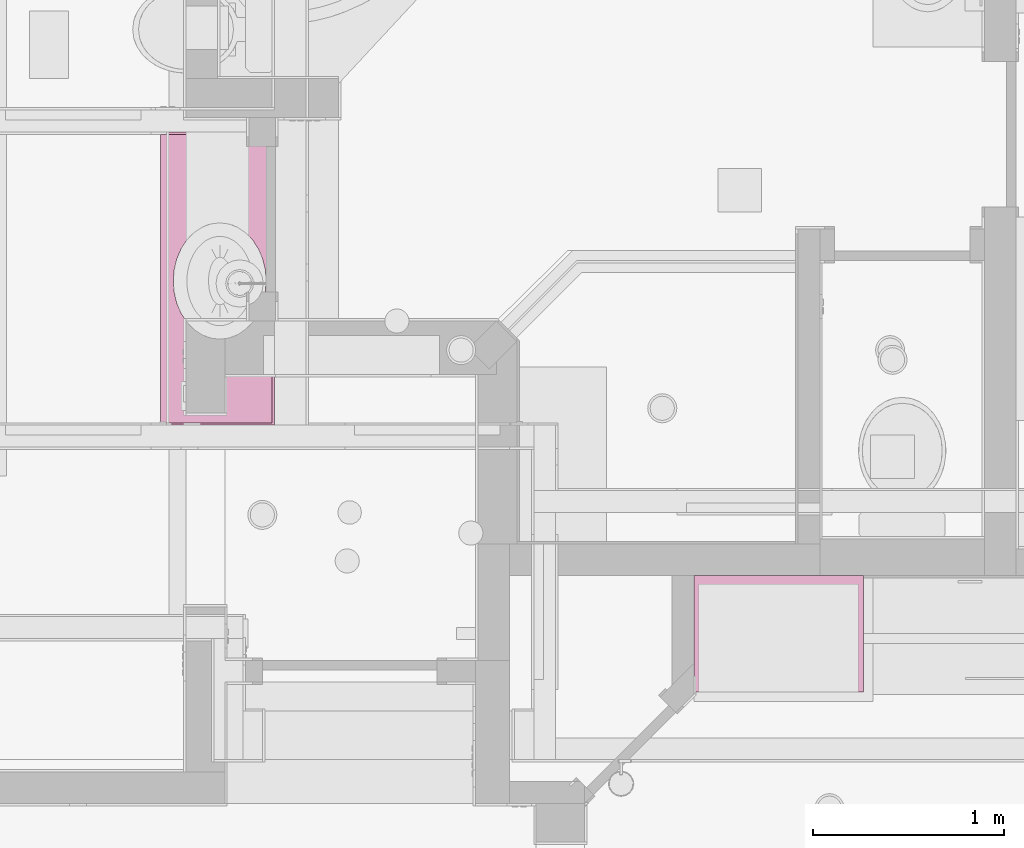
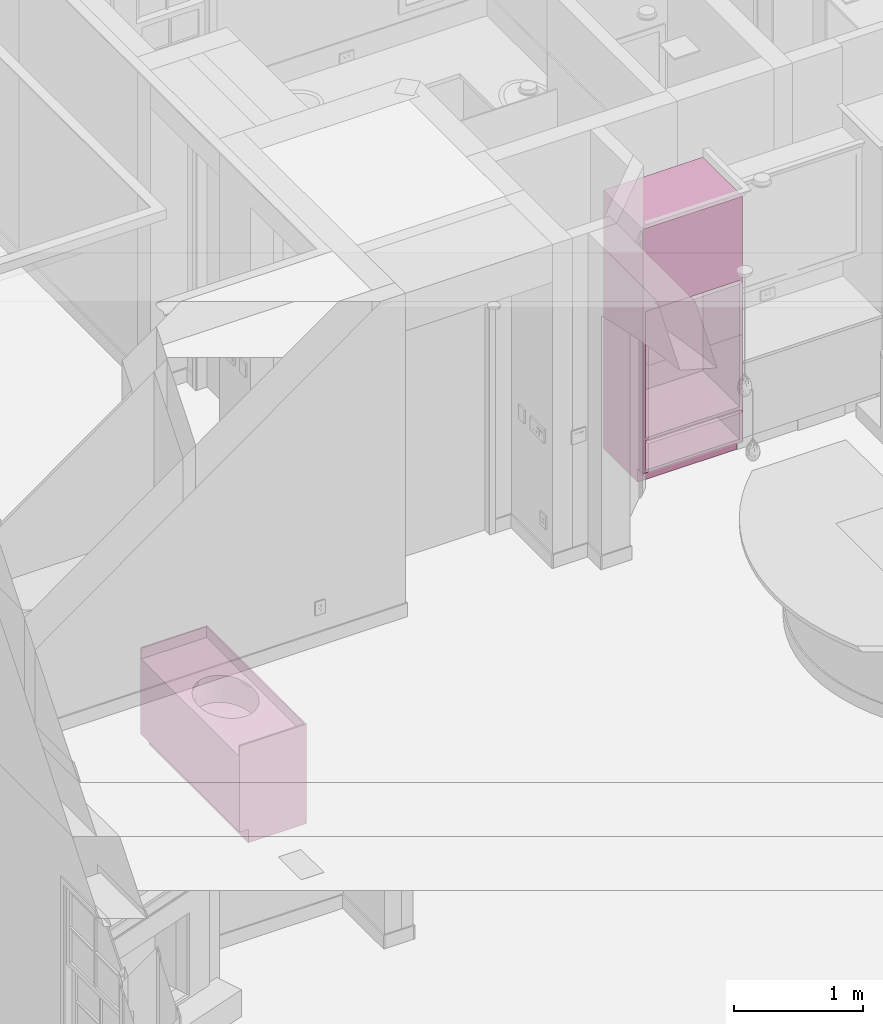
# One storey, part 58 of 81: 2 furnishings.
"""IFC2X3 building model written with IfcOpenShell, lengths in feet."""

from ifc_helpers import new_model, entity, si_unit, converted_unit, derived_unit, direction, frame, origin, place, context, subcontext, project, spatial, faceted_brep, source, transform, mapped, material, type_object, type_shapes, element, save


model = new_model("IFC2X3")

# Units and contexts
model_context = context("Model", 3, precision=0.0001, world=origin(), true_north=direction((6.12303176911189e-17, 1.0)))
body_context = subcontext(model_context, "Body", "Model", "MODEL_VIEW")
ifc_project = project(units=[converted_unit("LENGTHUNIT", "FOOT", entity("IfcRatioMeasure", 0.3048), si_unit("LENGTHUNIT", "METRE"), dimensions=[1, 0, 0, 0, 0, 0, 0]), converted_unit("AREAUNIT", "SQUARE FOOT", entity("IfcRatioMeasure", 0.09290304), si_unit("AREAUNIT", "SQUARE_METRE"), dimensions=[2, 0, 0, 0, 0, 0, 0]), converted_unit("VOLUMEUNIT", "CUBIC FOOT", entity("IfcRatioMeasure", 0.028316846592), si_unit("VOLUMEUNIT", "CUBIC_METRE"), dimensions=[3, 0, 0, 0, 0, 0, 0]), converted_unit("PLANEANGLEUNIT", "DEGREE", entity("IfcRatioMeasure", 0.0174532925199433), si_unit("PLANEANGLEUNIT", "RADIAN"), dimensions=[0, 0, 0, 0, 0, 0, 0]), si_unit("MASSUNIT", "GRAM", prefix="KILO"), derived_unit("MASSDENSITYUNIT", [(si_unit("MASSUNIT", "GRAM", prefix="KILO"), 1), (si_unit("LENGTHUNIT", "METRE"), -3)]), derived_unit("MOMENTOFINERTIAUNIT", [(si_unit("LENGTHUNIT", "METRE"), 4)]), si_unit("TIMEUNIT", "SECOND"), si_unit("FREQUENCYUNIT", "HERTZ"), si_unit("THERMODYNAMICTEMPERATUREUNIT", "DEGREE_CELSIUS"), derived_unit("THERMALTRANSMITTANCEUNIT", [(si_unit("MASSUNIT", "GRAM", prefix="KILO"), 1), (si_unit("THERMODYNAMICTEMPERATUREUNIT", "KELVIN"), -1), (si_unit("TIMEUNIT", "SECOND"), -3)]), derived_unit("VOLUMETRICFLOWRATEUNIT", [(si_unit("LENGTHUNIT", "METRE"), 3), (si_unit("TIMEUNIT", "SECOND"), -1)]), si_unit("ELECTRICCURRENTUNIT", "AMPERE"), si_unit("ELECTRICVOLTAGEUNIT", "VOLT"), si_unit("POWERUNIT", "WATT"), si_unit("FORCEUNIT", "NEWTON"), si_unit("ILLUMINANCEUNIT", "LUX"), si_unit("LUMINOUSFLUXUNIT", "LUMEN"), si_unit("LUMINOUSINTENSITYUNIT", "CANDELA"), derived_unit("USERDEFINED", [(si_unit("MASSUNIT", "GRAM", prefix="KILO"), -1), (si_unit("LENGTHUNIT", "METRE"), -2), (si_unit("TIMEUNIT", "SECOND"), 3), (si_unit("LUMINOUSFLUXUNIT", "LUMEN"), 1)]), derived_unit("LINEARVELOCITYUNIT", [(si_unit("LENGTHUNIT", "METRE"), 1), (si_unit("TIMEUNIT", "SECOND"), -1)]), si_unit("PRESSUREUNIT", "PASCAL"), derived_unit("USERDEFINED", [(si_unit("LENGTHUNIT", "METRE"), -2), (si_unit("MASSUNIT", "GRAM", prefix="KILO"), 1), (si_unit("TIMEUNIT", "SECOND"), -2)]), derived_unit("LINEARFORCEUNIT", [(si_unit("MASSUNIT", "GRAM", prefix="KILO"), 1), (si_unit("LENGTHUNIT", "METRE"), 1), (si_unit("TIMEUNIT", "SECOND"), -2), (si_unit("LENGTHUNIT", "METRE"), -1)]), derived_unit("PLANARFORCEUNIT", [(si_unit("MASSUNIT", "GRAM", prefix="KILO"), 1), (si_unit("LENGTHUNIT", "METRE"), 1), (si_unit("TIMEUNIT", "SECOND"), -2), (si_unit("LENGTHUNIT", "METRE"), -2)])], contexts=[model_context])

# Site, building, storey
site_placement = place(None, origin())
site = spatial("IfcSite", under=ifc_project, at=site_placement, Name="Default", CompositionType="ELEMENT")
building_placement = place(site_placement, origin())
building = spatial("IfcBuilding", under=site, at=building_placement, CompositionType="ELEMENT")
storey_placement = place(building_placement, origin())
storey = spatial("IfcBuildingStorey", under=building, at=storey_placement, Name="First floor", CompositionType="ELEMENT", Elevation=0.0)

# Furnishings
ifc_material = material(Name="Default New Material")
furniture_type_1 = type_object("IfcFurnitureType", Name="Casework 1:Casework 1", material=ifc_material)
shared_shape_1 = source(origin(), body_context, "Body", "Brep", [
    faceted_brep([(1.9583333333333, 0.0, 2.75), (1.46016857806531, 1.64769705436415, 2.75), (1.32219673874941, 1.55528713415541, 2.75), (1.58110190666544, 1.77205988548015, 2.75), (1.17248856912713, 1.49838138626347, 2.75), (1.01679727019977, 1.4791666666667, 2.75), (1.68034932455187, 1.9235964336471, 2.75), (1.75409680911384, 2.09648323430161, 2.75), (1.79951028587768, 2.28407634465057, 2.75), (1.81484454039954, 2.4791666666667, 2.75), (1.9583333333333, 5.04166666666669, 2.75), (0.0, 0.0, 2.75), (1.79951028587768, 2.67425698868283, 2.75), (1.75409680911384, 2.86185009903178, 2.75), (1.68034932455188, 3.0347368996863, 2.75), (1.58110190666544, 3.18627344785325, 2.75), (1.46016857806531, 3.31063627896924, 2.75), (1.32219673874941, 3.40304619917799, 2.75), (1.17248856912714, 3.45995194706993, 2.75), (1.01679727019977, 3.4791666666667, 2.75), (0.0, 5.04166666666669, 2.75), (0.861105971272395, 3.45995194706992, 2.75), (0.711397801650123, 3.40304619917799, 2.75), (0.573425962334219, 3.31063627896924, 2.75), (0.452492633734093, 3.18627344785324, 2.75), (0.353245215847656, 3.03473689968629, 2.75), (0.279497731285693, 2.86185009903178, 2.75), (0.234084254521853, 2.67425698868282, 2.75), (0.218749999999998, 2.47916666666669, 2.75), (0.861105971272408, 1.49838138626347, 2.75), (0.711397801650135, 1.55528713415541, 2.75), (0.573425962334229, 1.64769705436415, 2.75), (0.452492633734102, 1.77205988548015, 2.75), (0.353245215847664, 1.92359643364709, 2.75), (0.279497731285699, 2.0964832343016, 2.75), (0.234084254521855, 2.28407634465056, 2.75), (1.9583333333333, 5.04166666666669, 2.625), (1.32219673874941, 3.40304619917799, 2.625), (1.17248856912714, 3.45995194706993, 2.625), (1.46016857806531, 3.31063627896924, 2.625), (1.01679727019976, 3.4791666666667, 2.625), (0.0, 5.04166666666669, 2.625), (1.58110190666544, 3.18627344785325, 2.625), (1.68034932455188, 3.0347368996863, 2.625), (1.75409680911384, 2.86185009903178, 2.625), (1.79951028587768, 2.67425698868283, 2.625), (1.81484454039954, 2.4791666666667, 2.625), (1.9583333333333, 0.0, 2.625), (1.79951028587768, 2.28407634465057, 2.625), (1.75409680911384, 2.09648323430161, 2.625), (1.68034932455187, 1.9235964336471, 2.625), (1.58110190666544, 1.77205988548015, 2.625), (1.46016857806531, 1.64769705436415, 2.625), (1.32219673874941, 1.55528713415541, 2.625), (1.17248856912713, 1.49838138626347, 2.625), (1.01679727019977, 1.4791666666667, 2.625), (0.0, 0.0, 2.625), (0.218749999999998, 2.47916666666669, 2.625), (0.861105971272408, 1.49838138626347, 2.625), (0.711397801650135, 1.55528713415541, 2.625), (0.573425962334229, 1.64769705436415, 2.625), (0.452492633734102, 1.77205988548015, 2.625), (0.353245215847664, 1.92359643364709, 2.625), (0.279497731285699, 2.0964832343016, 2.625), (0.234084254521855, 2.28407634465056, 2.625), (0.234084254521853, 2.67425698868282, 2.625), (0.861105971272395, 3.45995194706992, 2.625), (0.711397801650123, 3.40304619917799, 2.625), (0.573425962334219, 3.31063627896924, 2.625), (0.452492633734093, 3.18627344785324, 2.625), (0.353245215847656, 3.03473689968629, 2.625), (0.279497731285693, 2.86185009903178, 2.625), (0.824164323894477, 1.50873608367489, 2.6873687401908), (0.785136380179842, 3.43610700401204, 2.68749999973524), (1.01679727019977, 1.4791666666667, 2.67701974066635), (0.312982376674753, 2.0077700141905, 2.68749998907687), (0.312982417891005, 2.9505634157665, 2.68749999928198), (0.640600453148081, 1.5972453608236, 2.68749999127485), (0.479638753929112, 1.73960708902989, 2.68749996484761), (0.222592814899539, 2.38114953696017, 2.68750000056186), (0.510521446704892, 3.2521771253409, 2.6874999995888), (1.01679727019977, 1.4791666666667, 2.68750001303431), (0.227631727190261, 2.62794431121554, 2.68749999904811), (1.01679727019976, 3.4791666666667, 2.6875), (1.01679727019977, 3.4791666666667, 2.67701974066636), (1.20943021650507, 3.4495972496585, 2.6873687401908), (1.24845816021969, 1.52222632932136, 2.68749999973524), (1.72061216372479, 2.95056331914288, 2.68749998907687), (1.72061212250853, 2.0077699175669, 2.68749999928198), (1.39299408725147, 3.36108797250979, 2.68749999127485), (1.55395578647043, 3.21872624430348, 2.68749996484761), (1.8110017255, 2.57718379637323, 2.68750000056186), (1.52307309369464, 1.70615620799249, 2.6874999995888), (1.80596281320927, 2.33038902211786, 2.68749999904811)], [[[0, 1, 2]], [[1, 0, 3]], [[2, 4, 0]], [[0, 4, 5]], [[6, 3, 0]], [[7, 6, 0]], [[8, 7, 0]], [[9, 8, 0]], [[0, 10, 9]], [[5, 11, 0]], [[12, 9, 10]], [[13, 12, 10]], [[13, 10, 14]], [[15, 14, 10]], [[10, 16, 15]], [[16, 10, 17]], [[18, 17, 10]], [[19, 18, 10]], [[10, 20, 19]], [[21, 19, 20]], [[22, 21, 20]], [[20, 23, 22]], [[24, 23, 20]], [[24, 20, 25]], [[26, 25, 20]], [[26, 20, 27]], [[28, 27, 20]], [[28, 20, 11]], [[5, 29, 11]], [[30, 11, 29]], [[11, 30, 31]], [[31, 32, 11]], [[32, 33, 11]], [[33, 34, 11]], [[34, 35, 11]], [[11, 35, 28]], [[36, 37, 38]], [[37, 36, 39]], [[38, 40, 36]], [[36, 40, 41]], [[42, 39, 36]], [[43, 42, 36]], [[44, 43, 36]], [[45, 44, 36]], [[36, 46, 45]], [[46, 36, 47]], [[48, 46, 47]], [[48, 47, 49]], [[50, 49, 47]], [[47, 51, 50]], [[51, 47, 52]], [[53, 52, 47]], [[54, 53, 47]], [[47, 55, 54]], [[55, 47, 56]], [[41, 57, 56]], [[58, 55, 56]], [[56, 59, 58]], [[60, 59, 56]], [[60, 56, 61]], [[62, 61, 56]], [[62, 56, 63]], [[64, 63, 56]], [[64, 56, 57]], [[65, 57, 41]], [[66, 41, 40]], [[66, 67, 41]], [[68, 41, 67]], [[41, 68, 69]], [[69, 70, 41]], [[70, 71, 41]], [[71, 65, 41]], [[10, 0, 47, 36]], [[20, 10, 36, 41]], [[11, 20, 41, 56]], [[0, 11, 56, 47]], [[59, 72, 58]], [[22, 73, 21]], [[74, 58, 72]], [[33, 75, 34]], [[26, 76, 25]], [[60, 77, 59]], [[62, 63, 75]], [[72, 30, 29]], [[75, 78, 62]], [[77, 72, 59]], [[79, 75, 64]], [[57, 79, 64]], [[24, 80, 23]], [[32, 31, 78]], [[75, 79, 35]], [[30, 77, 31]], [[30, 72, 77]], [[29, 5, 81, 74]], [[74, 55, 58]], [[61, 78, 60]], [[78, 75, 33]], [[32, 78, 33]], [[34, 75, 35]], [[80, 68, 67]], [[76, 70, 69]], [[79, 28, 35]], [[75, 63, 64]], [[78, 31, 77]], [[60, 78, 77]], [[57, 65, 82]], [[76, 71, 70]], [[19, 21, 83]], [[66, 40, 84, 83]], [[71, 76, 82]], [[78, 61, 62]], [[69, 80, 76]], [[82, 65, 71]], [[67, 66, 73]], [[67, 73, 80]], [[80, 69, 68]], [[21, 73, 83]], [[28, 79, 82]], [[27, 28, 82]], [[26, 82, 76]], [[26, 27, 82]], [[57, 82, 79]], [[24, 25, 76]], [[80, 24, 76]], [[73, 22, 80]], [[22, 23, 80]], [[66, 83, 73]], [[29, 74, 72]], [[37, 85, 38]], [[2, 86, 4]], [[84, 38, 85]], [[14, 87, 13]], [[7, 88, 6]], [[39, 89, 37]], [[43, 44, 87]], [[85, 17, 18]], [[87, 90, 43]], [[89, 85, 37]], [[91, 87, 45]], [[46, 91, 45]], [[3, 92, 1]], [[15, 16, 90]], [[87, 91, 12]], [[17, 89, 16]], [[17, 85, 89]], [[18, 19, 83, 84]], [[84, 40, 38]], [[42, 90, 39]], [[90, 87, 14]], [[15, 90, 14]], [[13, 87, 12]], [[92, 52, 53]], [[88, 50, 51]], [[91, 9, 12]], [[87, 44, 45]], [[90, 16, 89]], [[39, 90, 89]], [[46, 48, 93]], [[88, 49, 50]], [[5, 4, 81]], [[54, 55, 74, 81]], [[49, 88, 93]], [[90, 42, 43]], [[51, 92, 88]], [[93, 48, 49]], [[53, 54, 86]], [[53, 86, 92]], [[92, 51, 52]], [[4, 86, 81]], [[9, 91, 93]], [[8, 9, 93]], [[7, 93, 88]], [[7, 8, 93]], [[46, 93, 91]], [[3, 6, 88]], [[92, 3, 88]], [[86, 2, 92]], [[2, 1, 92]], [[54, 81, 86]], [[18, 84, 85]]]),
    faceted_brep([(1.91666666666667, 5.04166666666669, 3.08333333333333), (0.0, 5.04166666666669, 3.08333333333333), (0.0, 5.0, 3.08333333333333), (1.91666666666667, 5.0, 3.08333333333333), (1.91666666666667, 0.0416666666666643, 3.08333333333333), (0.0, 0.0416666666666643, 3.08333333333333), (0.0, 0.0, 3.08333333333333), (1.91666666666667, 0.0, 3.08333333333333), (1.9583333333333, 0.0, 3.08333333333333), (1.9583333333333, 5.04166666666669, 3.08333333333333), (1.91666666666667, 5.04166666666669, 2.75), (1.9583333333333, 5.04166666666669, 2.75), (1.9583333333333, 0.0, 2.75), (1.91666666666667, 0.0, 2.75), (0.0, 0.0, 2.75), (0.0, 0.0416666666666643, 2.75), (1.91666666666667, 0.0416666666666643, 2.75), (1.91666666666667, 5.0, 2.75), (0.0, 5.0, 2.75), (0.0, 5.04166666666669, 2.75)], [[[0, 1, 2, 3, 4, 5, 6, 7, 8, 9]], [[10, 11, 12, 13, 14, 15, 16, 17, 18, 19]], [[1, 0, 10, 19]], [[2, 1, 19, 18]], [[3, 2, 18, 17]], [[4, 3, 17, 16]], [[5, 4, 16, 15]], [[6, 5, 15, 14]], [[7, 6, 14, 13]], [[8, 7, 13, 12]], [[9, 8, 12, 11]], [[0, 9, 11, 10]]]),
    faceted_brep([(1.9583333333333, 5.04166666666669, 2.625), (1.75409680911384, 2.86185009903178, 2.625), (1.79951028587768, 2.67425698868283, 2.625), (1.68034932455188, 3.0347368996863, 2.625), (1.81484454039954, 2.4791666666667, 2.625), (1.9583333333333, 0.0, 2.625), (1.58110190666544, 3.18627344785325, 2.625), (1.46016857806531, 3.31063627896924, 2.625), (1.32219673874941, 3.40304619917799, 2.625), (1.17248856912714, 3.45995194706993, 2.625), (1.01679727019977, 3.4791666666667, 2.625), (0.0, 5.04166666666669, 2.625), (0.861105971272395, 3.45995194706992, 2.625), (0.711397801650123, 3.40304619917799, 2.625), (0.573425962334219, 3.31063627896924, 2.625), (0.452492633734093, 3.18627344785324, 2.625), (0.353245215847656, 3.03473689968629, 2.625), (0.279497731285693, 2.86185009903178, 2.625), (0.234084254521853, 2.67425698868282, 2.625), (0.218749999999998, 2.47916666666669, 2.625), (0.0, 0.0, 2.625), (1.01679727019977, 1.4791666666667, 2.625), (0.234084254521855, 2.28407634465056, 2.625), (0.279497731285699, 2.0964832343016, 2.625), (0.353245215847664, 1.92359643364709, 2.625), (0.452492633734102, 1.77205988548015, 2.625), (0.573425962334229, 1.64769705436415, 2.625), (0.711397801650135, 1.55528713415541, 2.625), (0.861105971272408, 1.49838138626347, 2.625), (1.17248856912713, 1.49838138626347, 2.625), (1.79951028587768, 2.28407634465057, 2.625), (1.75409680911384, 2.09648323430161, 2.625), (1.68034932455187, 1.9235964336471, 2.625), (1.58110190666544, 1.77205988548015, 2.625), (1.46016857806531, 1.64769705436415, 2.625), (1.32219673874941, 1.55528713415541, 2.625), (0.25, 0.0, 0.0), (0.25, 5.04166666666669, 0.0), (1.9583333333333, 5.04166666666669, 0.0), (1.9583333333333, 0.0, 0.0), (0.25, 5.04166666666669, 0.416666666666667), (0.0, 5.04166666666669, 0.416666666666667), (0.0, 0.0, 0.416666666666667), (0.25, 0.0, 0.416666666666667), (0.353245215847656, 3.03473689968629, 1.91666666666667), (0.279497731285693, 2.86185009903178, 1.91666666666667), (0.234084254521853, 2.67425698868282, 1.91666666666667), (0.218749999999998, 2.47916666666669, 1.91666666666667), (0.234084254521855, 2.28407634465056, 1.91666666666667), (0.279497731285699, 2.0964832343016, 1.91666666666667), (0.353245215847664, 1.92359643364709, 1.91666666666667), (0.452492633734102, 1.77205988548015, 1.91666666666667), (0.573425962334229, 1.64769705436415, 1.91666666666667), (0.711397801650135, 1.55528713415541, 1.91666666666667), (0.861105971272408, 1.49838138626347, 1.91666666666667), (1.01679727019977, 1.4791666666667, 1.91666666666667), (1.17248856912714, 1.49838138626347, 1.91666666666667), (1.32219673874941, 1.55528713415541, 1.91666666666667), (1.46016857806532, 1.64769705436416, 1.91666666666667), (1.58110190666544, 1.77205988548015, 1.91666666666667), (1.68034932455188, 1.9235964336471, 1.91666666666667), (1.75409680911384, 2.09648323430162, 1.91666666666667), (1.79951028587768, 2.28407634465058, 1.91666666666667), (1.81484454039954, 2.47916666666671, 1.91666666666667), (1.79951028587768, 2.67425698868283, 1.91666666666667), (1.75409680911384, 2.86185009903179, 1.91666666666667), (1.68034932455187, 3.03473689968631, 1.91666666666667), (1.58110190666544, 3.18627344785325, 1.91666666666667), (1.46016857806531, 3.31063627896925, 1.91666666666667), (1.3221967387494, 3.40304619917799, 1.91666666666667), (1.17248856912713, 3.45995194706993, 1.91666666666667), (1.01679727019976, 3.4791666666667, 1.91666666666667), (0.861105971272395, 3.45995194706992, 1.91666666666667), (0.711397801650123, 3.40304619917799, 1.91666666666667), (0.573425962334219, 3.31063627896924, 1.91666666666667), (0.452492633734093, 3.18627344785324, 1.91666666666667), (0.640600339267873, 1.59724543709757, 2.27083335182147), (0.823766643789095, 1.50886016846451, 2.26918255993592), (0.479638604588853, 1.7396072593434, 2.27083338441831), (0.312982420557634, 2.00776991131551, 2.2708333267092), (0.222592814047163, 2.38114954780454, 2.27083334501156), (1.01679727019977, 1.4791666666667, 2.22049454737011), (0.253113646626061, 2.76945134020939, 2.27083332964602), (0.640600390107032, 3.36108793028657, 2.2708333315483), (0.399898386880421, 3.11355994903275, 2.27083333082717), (0.823766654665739, 3.44947316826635, 2.26918248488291), (1.01679727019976, 3.4791666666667, 2.22049459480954), (1.39299420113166, 3.36108789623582, 2.27083335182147), (1.20982789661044, 3.44947316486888, 2.26918255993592), (1.55395593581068, 3.21872607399, 2.27083338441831), (1.7206121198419, 2.95056342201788, 2.2708333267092), (1.81100172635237, 2.57718378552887, 2.27083334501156), (1.78048089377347, 2.18888199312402, 2.27083332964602), (1.3929941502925, 1.59724540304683, 2.2708333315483), (1.63369615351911, 1.84477338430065, 2.27083333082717), (1.20982788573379, 1.50886016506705, 2.26918248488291)], [[[0, 1, 2]], [[1, 0, 3]], [[2, 4, 0]], [[0, 4, 5]], [[6, 3, 0]], [[7, 6, 0]], [[8, 7, 0]], [[9, 8, 0]], [[0, 10, 9]], [[10, 0, 11]], [[12, 10, 11]], [[12, 11, 13]], [[14, 13, 11]], [[11, 15, 14]], [[15, 11, 16]], [[17, 16, 11]], [[18, 17, 11]], [[11, 19, 18]], [[19, 11, 20]], [[5, 21, 20]], [[22, 19, 20]], [[20, 23, 22]], [[24, 23, 20]], [[24, 20, 25]], [[26, 25, 20]], [[26, 20, 27]], [[28, 27, 20]], [[28, 20, 21]], [[29, 21, 5]], [[30, 5, 4]], [[30, 31, 5]], [[32, 5, 31]], [[5, 32, 33]], [[33, 34, 5]], [[34, 35, 5]], [[35, 29, 5]], [[36, 37, 38, 39]], [[11, 0, 38, 37, 40, 41]], [[20, 11, 41, 42]], [[5, 20, 42, 43, 36, 39]], [[0, 5, 39, 38]], [[40, 37, 36, 43]], [[41, 40, 43, 42]], [[44, 45, 46, 47, 48, 49, 50, 51, 52, 53, 54, 55, 56, 57, 58, 59, 60, 61, 62, 63, 64, 65, 66, 67, 68, 69, 70, 71, 72, 73, 74, 75]], [[76, 53, 52]], [[54, 53, 77]], [[76, 77, 53]], [[52, 78, 76]], [[78, 52, 51]], [[79, 50, 49]], [[27, 76, 26]], [[79, 49, 48]], [[78, 50, 79]], [[22, 23, 80]], [[80, 79, 48]], [[78, 24, 25]], [[28, 21, 81]], [[54, 81, 55]], [[82, 18, 19]], [[54, 77, 81]], [[77, 27, 28]], [[79, 24, 78]], [[76, 78, 26]], [[24, 79, 23]], [[23, 79, 80]], [[83, 14, 15]], [[84, 16, 17]], [[80, 19, 22]], [[46, 80, 47]], [[47, 80, 48]], [[13, 83, 85]], [[82, 45, 44]], [[46, 45, 82]], [[84, 75, 74]], [[44, 75, 84]], [[73, 72, 85]], [[12, 86, 10]], [[86, 72, 71]], [[82, 44, 84]], [[74, 73, 83]], [[28, 81, 77]], [[13, 85, 12]], [[26, 78, 25]], [[86, 85, 72]], [[84, 74, 83]], [[86, 12, 85]], [[82, 19, 80]], [[82, 17, 18]], [[82, 84, 17]], [[78, 51, 50]], [[15, 16, 84]], [[83, 15, 84]], [[14, 83, 13]], [[27, 77, 76]], [[83, 73, 85]], [[46, 82, 80]], [[87, 69, 68]], [[70, 69, 88]], [[87, 88, 69]], [[68, 89, 87]], [[89, 68, 67]], [[90, 66, 65]], [[8, 87, 7]], [[90, 65, 64]], [[89, 66, 90]], [[2, 1, 91]], [[91, 90, 64]], [[89, 3, 6]], [[9, 10, 86]], [[70, 86, 71]], [[92, 30, 4]], [[70, 88, 86]], [[88, 8, 9]], [[90, 3, 89]], [[87, 89, 7]], [[3, 90, 1]], [[1, 90, 91]], [[93, 34, 33]], [[94, 32, 31]], [[91, 4, 2]], [[62, 91, 63]], [[63, 91, 64]], [[35, 93, 95]], [[92, 61, 60]], [[62, 61, 92]], [[94, 59, 58]], [[60, 59, 94]], [[57, 56, 95]], [[29, 81, 21]], [[81, 56, 55]], [[92, 60, 94]], [[58, 57, 93]], [[9, 86, 88]], [[35, 95, 29]], [[7, 89, 6]], [[81, 95, 56]], [[94, 58, 93]], [[81, 29, 95]], [[92, 4, 91]], [[92, 31, 30]], [[92, 94, 31]], [[89, 67, 66]], [[33, 32, 94]], [[93, 33, 94]], [[34, 93, 35]], [[8, 88, 87]], [[93, 57, 95]], [[62, 92, 91]]]),
])
type_shapes(furniture_type_1, [shared_shape_1])
furnishing_1_placement = place(storey_placement, frame((-6.75, 35.5416666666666, 0.0)))
element("IfcFurnishingElement", 1, at=furnishing_1_placement, inside=storey, type_object=furniture_type_1, material=ifc_material, Name="Casework 1:Casework 1", ObjectType="Casework 1:Casework 1", context=body_context, shape_type="MappedRepresentation", body=[
    mapped(shared_shape_1, transform((0.0, 0.0, 0.0), scale=1.0)),
])
furniture_type_2 = type_object("IfcFurnitureType", Name="Casework 9:Casework 9", material=ifc_material)
shared_shape_2 = source(origin(), body_context, "Body", "Brep", [
    faceted_brep([(2.91666666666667, 0.0, 8.0), (0.0, 0.0, 8.0), (0.0, 0.0, 0.421875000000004), (2.91666666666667, 0.0, 0.421875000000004), (2.83333333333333, 0.0, 1.50520833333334), (0.0833333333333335, 0.0, 1.50520833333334), (0.083333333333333, 0.0, 5.42187500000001), (2.83333333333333, 0.0, 5.42187500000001), (0.083333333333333, 0.0, 1.421875), (2.83333333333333, 0.0, 1.421875), (2.83333333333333, 0.0, 0.505208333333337), (0.0833333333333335, 0.0, 0.505208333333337), (0.0, 2.0, 8.0), (2.91666666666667, 2.0, 8.0), (2.91666666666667, 2.0, 0.0), (0.0, 2.0, 0.0), (0.0, 0.270833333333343, 0.0), (0.0, 0.270833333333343, 0.421875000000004), (2.91666666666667, 0.270833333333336, 0.0), (2.91666666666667, 0.270833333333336, 0.421875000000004), (2.83333333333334, 1.85416666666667, 1.50520833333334), (2.83333333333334, 1.85416666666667, 5.42187500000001), (0.0833333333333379, 1.85416666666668, 5.42187500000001), (0.0833333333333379, 1.85416666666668, 1.50520833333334), (0.0833333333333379, 1.85416666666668, 1.421875), (2.83333333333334, 1.85416666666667, 1.421875), (2.83333333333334, 1.85416666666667, 0.505208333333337), (0.0833333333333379, 1.85416666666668, 0.505208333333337)], [[[0, 1, 2, 3], [4, 5, 6, 7], [8, 9, 10, 11]], [[12, 13, 14, 15]], [[12, 15, 16, 17, 2, 1]], [[15, 14, 18, 16]], [[14, 13, 0, 3, 19, 18]], [[1, 0, 13, 12]], [[20, 21, 22, 23]], [[20, 23, 5, 4]], [[23, 22, 6, 5]], [[22, 21, 7, 6]], [[21, 20, 4, 7]], [[24, 25, 9, 8]], [[25, 26, 10, 9]], [[26, 27, 11, 10]], [[27, 24, 8, 11]], [[19, 17, 16, 18]], [[17, 19, 3, 2]], [[24, 27, 26, 25]]]),
])
type_shapes(furniture_type_2, [shared_shape_2])
furnishing_2_placement = place(storey_placement, frame((2.41632952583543, 30.9583333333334, 10.6666666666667)))
element("IfcFurnishingElement", 2, at=furnishing_2_placement, inside=storey, type_object=furniture_type_2, material=ifc_material, Name="Casework 9:Casework 9", ObjectType="Casework 9:Casework 9", context=body_context, shape_type="MappedRepresentation", body=[
    mapped(shared_shape_2, transform((0.0, 0.0, 0.0), scale=1.0)),
])

save(model, "model.ifc")
